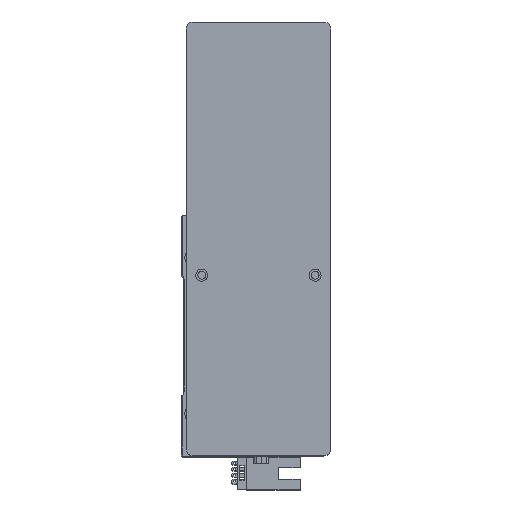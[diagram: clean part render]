
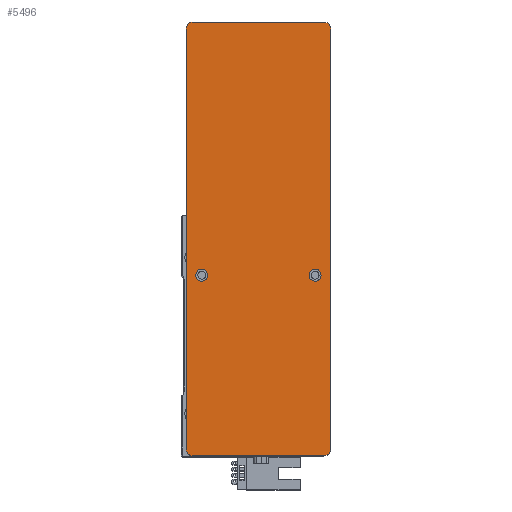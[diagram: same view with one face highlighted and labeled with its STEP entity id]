
A CAD part, top view. The second image highlights one B-rep face of the part: STEP entity #5496.
In plain terms, the highlighted planar face has unit normal (0, 0, 1) as drawn and (0, 0, -1) by its records, which use the part's own axes.
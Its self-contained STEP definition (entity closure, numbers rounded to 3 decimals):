
#884 = DIRECTION ( 'NONE',  ( -1., 0., 0. ) ) ;
#1183 = ORIENTED_EDGE ( 'NONE', *, *, #6380, .F. ) ;
#1335 = DIRECTION ( 'NONE',  ( 0., 0., -1. ) ) ;
#1743 = FACE_BOUND ( 'NONE', #33697, .T. ) ;
#1972 = VERTEX_POINT ( 'NONE', #25714 ) ;
#2008 = EDGE_CURVE ( 'NONE', #37054, #26559, #20017, .T. ) ;
#2490 = CARTESIAN_POINT ( 'NONE',  ( -87., 30., 0. ) ) ;
#2546 = VECTOR ( 'NONE', #2811, 1000. ) ;
#2704 = CARTESIAN_POINT ( 'NONE',  ( -15., -23.5, 0. ) ) ;
#2811 = DIRECTION ( 'NONE',  ( 1., 0., 0. ) ) ;
#2842 = VECTOR ( 'NONE', #9571, 1000. ) ;
#3377 = CIRCLE ( 'NONE', #23664, 3. ) ;
#3742 = CARTESIAN_POINT ( 'NONE',  ( 90., 30., 0. ) ) ;
#3938 = EDGE_LOOP ( 'NONE', ( #13023, #28049 ) ) ;
#4374 = AXIS2_PLACEMENT_3D ( 'NONE', #13455, #34170, #16458 ) ;
#4561 = ORIENTED_EDGE ( 'NONE', *, *, #27088, .F. ) ;
#4678 = CARTESIAN_POINT ( 'NONE',  ( 0., 0., 0. ) ) ;
#5496 = ADVANCED_FACE ( 'NONE', ( #25385, #1743, #17501 ), #28646, .F. ) ;
#5673 = DIRECTION ( 'NONE',  ( -1., 0., 0. ) ) ;
#6380 = EDGE_CURVE ( 'NONE', #37009, #1972, #10431, .T. ) ;
#7232 = EDGE_CURVE ( 'NONE', #7855, #1972, #3377, .T. ) ;
#7855 = VERTEX_POINT ( 'NONE', #38404 ) ;
#8116 = DIRECTION ( 'NONE',  ( 0., 0., -1. ) ) ;
#8231 = CARTESIAN_POINT ( 'NONE',  ( -87., 27., 0. ) ) ;
#8412 = VERTEX_POINT ( 'NONE', #17392 ) ;
#8430 = CARTESIAN_POINT ( 'NONE',  ( -17.5, -23.5, 0. ) ) ;
#8565 = ORIENTED_EDGE ( 'NONE', *, *, #7232, .T. ) ;
#8619 = ORIENTED_EDGE ( 'NONE', *, *, #36037, .F. ) ;
#8904 = VERTEX_POINT ( 'NONE', #8430 ) ;
#9123 = LINE ( 'NONE', #14547, #17004 ) ;
#9436 = CARTESIAN_POINT ( 'NONE',  ( -90., -27., 0. ) ) ;
#9571 = DIRECTION ( 'NONE',  ( -1., 0., 0. ) ) ;
#10431 = LINE ( 'NONE', #20592, #2546 ) ;
#11139 = DIRECTION ( 'NONE',  ( 0., 0., -1. ) ) ;
#11200 = DIRECTION ( 'NONE',  ( 1., 0., 0. ) ) ;
#11665 = AXIS2_PLACEMENT_3D ( 'NONE', #4678, #13873, #34582 ) ;
#12069 = CARTESIAN_POINT ( 'NONE',  ( 87., 27., 0. ) ) ;
#12195 = CIRCLE ( 'NONE', #13540, 2.5 ) ;
#13018 = ORIENTED_EDGE ( 'NONE', *, *, #13911, .T. ) ;
#13023 = ORIENTED_EDGE ( 'NONE', *, *, #33018, .F. ) ;
#13455 = CARTESIAN_POINT ( 'NONE',  ( -87., -27., 0. ) ) ;
#13540 = AXIS2_PLACEMENT_3D ( 'NONE', #36306, #18612, #884 ) ;
#13873 = DIRECTION ( 'NONE',  ( 0., 0., 1. ) ) ;
#13911 = EDGE_CURVE ( 'NONE', #37009, #35991, #17248, .T. ) ;
#13984 = CIRCLE ( 'NONE', #16753, 3. ) ;
#14547 = CARTESIAN_POINT ( 'NONE',  ( 90., -30., 0. ) ) ;
#15057 = DIRECTION ( 'NONE',  ( 1., 0., 0. ) ) ;
#16360 = VECTOR ( 'NONE', #21848, 1000. ) ;
#16458 = DIRECTION ( 'NONE',  ( 1., 0., 0. ) ) ;
#16753 = AXIS2_PLACEMENT_3D ( 'NONE', #12069, #32763, #15057 ) ;
#16893 = EDGE_LOOP ( 'NONE', ( #24602, #8565, #1183, #13018, #24920, #30581, #8619, #27158 ) ) ;
#17004 = VECTOR ( 'NONE', #35113, 1000. ) ;
#17028 = AXIS2_PLACEMENT_3D ( 'NONE', #25848, #8116, #28826 ) ;
#17248 = CIRCLE ( 'NONE', #4374, 3. ) ;
#17392 = CARTESIAN_POINT ( 'NONE',  ( 87., 30., 0. ) ) ;
#17501 = FACE_OUTER_BOUND ( 'NONE', #16893, .T. ) ;
#18612 = DIRECTION ( 'NONE',  ( 0., 0., -1. ) ) ;
#19081 = CARTESIAN_POINT ( 'NONE',  ( -15., 23.5, 0. ) ) ;
#20017 = CIRCLE ( 'NONE', #21247, 3. ) ;
#20592 = CARTESIAN_POINT ( 'NONE',  ( 90., -30., 0. ) ) ;
#20720 = EDGE_CURVE ( 'NONE', #7855, #37419, #9123, .T. ) ;
#21047 = EDGE_CURVE ( 'NONE', #22731, #25686, #22081, .T. ) ;
#21247 = AXIS2_PLACEMENT_3D ( 'NONE', #8231, #28942, #11200 ) ;
#21386 = CARTESIAN_POINT ( 'NONE',  ( -17.5, 23.5, 0. ) ) ;
#21745 = AXIS2_PLACEMENT_3D ( 'NONE', #2704, #23450, #5673 ) ;
#21848 = DIRECTION ( 'NONE',  ( 0., -1., 0. ) ) ;
#22070 = DIRECTION ( 'NONE',  ( -1., 0., 0. ) ) ;
#22081 = CIRCLE ( 'NONE', #37989, 2.5 ) ;
#22645 = EDGE_CURVE ( 'NONE', #8412, #37419, #13984, .T. ) ;
#22731 = VERTEX_POINT ( 'NONE', #33139 ) ;
#23131 = VERTEX_POINT ( 'NONE', #32467 ) ;
#23450 = DIRECTION ( 'NONE',  ( 0., 0., -1. ) ) ;
#23532 = EDGE_CURVE ( 'NONE', #23131, #8904, #33319, .T. ) ;
#23664 = AXIS2_PLACEMENT_3D ( 'NONE', #28878, #11139, #31825 ) ;
#24602 = ORIENTED_EDGE ( 'NONE', *, *, #20720, .F. ) ;
#24920 = ORIENTED_EDGE ( 'NONE', *, *, #33087, .F. ) ;
#25385 = FACE_BOUND ( 'NONE', #3938, .T. ) ;
#25686 = VERTEX_POINT ( 'NONE', #21386 ) ;
#25714 = CARTESIAN_POINT ( 'NONE',  ( 87., -30., 0. ) ) ;
#25848 = CARTESIAN_POINT ( 'NONE',  ( -15., -23.5, 0. ) ) ;
#26487 = LINE ( 'NONE', #3742, #2842 ) ;
#26559 = VERTEX_POINT ( 'NONE', #2490 ) ;
#27088 = EDGE_CURVE ( 'NONE', #8904, #23131, #30394, .T. ) ;
#27158 = ORIENTED_EDGE ( 'NONE', *, *, #22645, .T. ) ;
#27684 = ORIENTED_EDGE ( 'NONE', *, *, #23532, .F. ) ;
#27928 = LINE ( 'NONE', #33575, #16360 ) ;
#28049 = ORIENTED_EDGE ( 'NONE', *, *, #21047, .F. ) ;
#28646 = PLANE ( 'NONE',  #11665 ) ;
#28826 = DIRECTION ( 'NONE',  ( -1., 0., 0. ) ) ;
#28878 = CARTESIAN_POINT ( 'NONE',  ( 87., -27., 0. ) ) ;
#28942 = DIRECTION ( 'NONE',  ( 0., 0., -1. ) ) ;
#29282 = CARTESIAN_POINT ( 'NONE',  ( -87., -30., 0. ) ) ;
#30394 = CIRCLE ( 'NONE', #21745, 2.5 ) ;
#30581 = ORIENTED_EDGE ( 'NONE', *, *, #2008, .T. ) ;
#31825 = DIRECTION ( 'NONE',  ( 1., 0., 0. ) ) ;
#32467 = CARTESIAN_POINT ( 'NONE',  ( -12.5, -23.5, 0. ) ) ;
#32758 = CARTESIAN_POINT ( 'NONE',  ( -90., 27., 0. ) ) ;
#32763 = DIRECTION ( 'NONE',  ( 0., 0., -1. ) ) ;
#33018 = EDGE_CURVE ( 'NONE', #25686, #22731, #12195, .T. ) ;
#33087 = EDGE_CURVE ( 'NONE', #37054, #35991, #27928, .T. ) ;
#33139 = CARTESIAN_POINT ( 'NONE',  ( -12.5, 23.5, 0. ) ) ;
#33319 = CIRCLE ( 'NONE', #17028, 2.5 ) ;
#33575 = CARTESIAN_POINT ( 'NONE',  ( -90., -30., 0. ) ) ;
#33697 = EDGE_LOOP ( 'NONE', ( #4561, #27684 ) ) ;
#34170 = DIRECTION ( 'NONE',  ( 0., 0., -1. ) ) ;
#34582 = DIRECTION ( 'NONE',  ( 1., 0., 0. ) ) ;
#35113 = DIRECTION ( 'NONE',  ( 0., 1., 0. ) ) ;
#35991 = VERTEX_POINT ( 'NONE', #9436 ) ;
#36037 = EDGE_CURVE ( 'NONE', #8412, #26559, #26487, .T. ) ;
#36306 = CARTESIAN_POINT ( 'NONE',  ( -15., 23.5, 0. ) ) ;
#37009 = VERTEX_POINT ( 'NONE', #29282 ) ;
#37054 = VERTEX_POINT ( 'NONE', #32758 ) ;
#37419 = VERTEX_POINT ( 'NONE', #37529 ) ;
#37529 = CARTESIAN_POINT ( 'NONE',  ( 90., 27., 0. ) ) ;
#37989 = AXIS2_PLACEMENT_3D ( 'NONE', #19081, #1335, #22070 ) ;
#38404 = CARTESIAN_POINT ( 'NONE',  ( 90., -27., 0. ) ) ;
